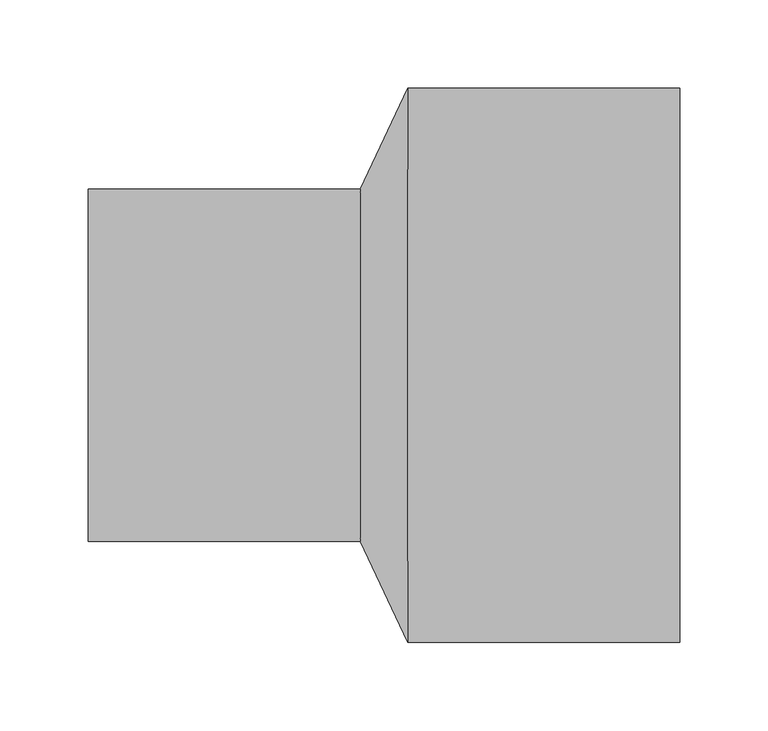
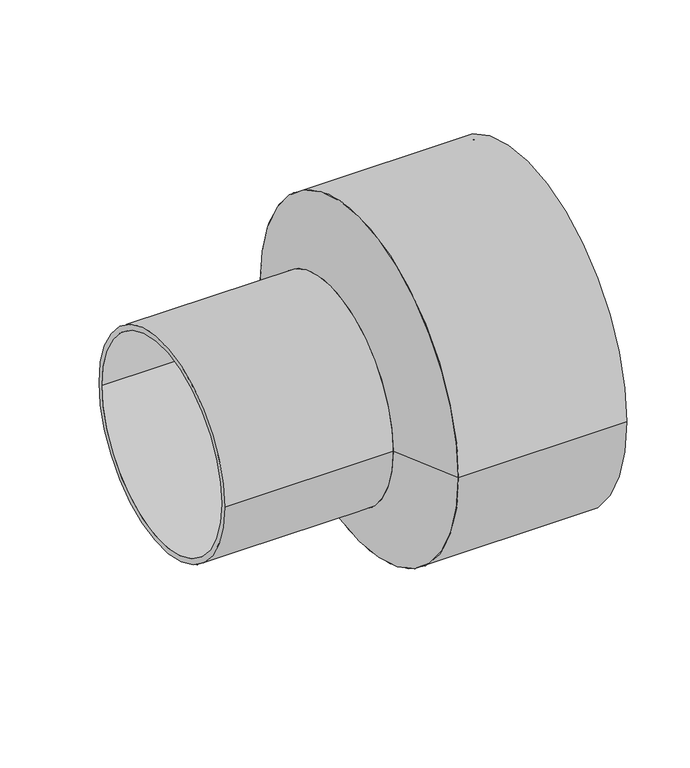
"""IFC4 building model written with IfcOpenShell, lengths in millimetres: pipe fitting geometry, EGB_VASEN_ PPR_Manguito reductor a tope WXRB110 : Manguito reductor a tope WXRB110."""

from ifc_helpers import new_model, si_unit, point, frame, origin, origin_2d, place, context, project, spatial, polyline, circle_curve, trimmed, segment, composite_curve, outline, extrude, source, transform, mapped, element, save
from ifc_brep_helpers import plane_surface, revolved_surface, advanced_brep


def pipe_fitting_3b765f45(model_context):
    return source(origin(), model_context, "Body", "SolidModel", [
        extrude(outline(composite_curve([segment(trimmed(circle_curve(origin_2d(), 157.5), [point((-157.5, 0.0))], [point((157.5, 0.0))], False, "CARTESIAN"), True, "CONTINUOUS"), segment(trimmed(circle_curve(origin_2d(), 157.5), [point((157.5, 0.0))], [point((-157.5, 0.0))], False, "CARTESIAN"), True, "CONTINUOUS")], self_intersect=False), holes=[composite_curve([segment(trimmed(circle_curve(origin_2d(), 152.5), [point((-152.5, 0.0))], [point((152.5, 0.0))], True, "CARTESIAN"), True, "CONTINUOUS"), segment(trimmed(circle_curve(origin_2d(), 152.5), [point((152.5, 0.0))], [point((-152.5, 0.0))], True, "CARTESIAN"), True, "CONTINUOUS")], self_intersect=False)]), frame((13.44, 0.0, 0.0), z_axis=(1.0, 0.0, 0.0), x_axis=(0.0, 1.0, 0.0)), (0.0, 0.0, 1.0), 154.56),
        extrude(outline(composite_curve([segment(trimmed(circle_curve(origin_2d(), 100.0), [point((-100.0, 0.0))], [point((100.0, 0.0))], False, "CARTESIAN"), True, "CONTINUOUS"), segment(trimmed(circle_curve(origin_2d(), 100.0), [point((100.0, 0.0))], [point((-100.0, 0.0))], False, "CARTESIAN"), True, "CONTINUOUS")], self_intersect=False), holes=[composite_curve([segment(trimmed(circle_curve(origin_2d(), 95.0), [point((-95.0, 0.0))], [point((95.0, 0.0))], True, "CARTESIAN"), True, "CONTINUOUS"), segment(trimmed(circle_curve(origin_2d(), 95.0), [point((95.0, 0.0))], [point((-95.0, 0.0))], True, "CARTESIAN"), True, "CONTINUOUS")], self_intersect=False)]), frame((-168.0, 0.0, 0.0), z_axis=(1.0, 0.0, 0.0), x_axis=(0.0, 1.0, 0.0)), (0.0, 0.0, 1.0), 154.56),
        advanced_brep(
        [(13.44, -157.5, 0.0), (13.44, 157.5, 0.0), (-13.44, -100.0, 0.0), (-13.44, 100.0, 0.0)],
        [
            (0, 1, circle_curve(frame((13.44, 0.0, 0.0), z_axis=(1.0, 0.0, 0.0), x_axis=(0.0, -1.0, 0.0)), 157.5)),
            (1, 0, circle_curve(frame((13.44, 0.0, 0.0), z_axis=(1.0, 0.0, 0.0), x_axis=(0.0, 1.0, 0.0)), 157.5)),
            (2, 3, circle_curve(frame((-13.44, 0.0, 0.0), z_axis=(-1.0, 0.0, 0.0), x_axis=(0.0, 1.0, 0.0)), 100.0)),
            (3, 2, circle_curve(frame((-13.44, 0.0, 0.0), z_axis=(-1.0, 0.0, 0.0), x_axis=(0.0, -1.0, 0.0)), 100.0)),
            (3, 1),
            (0, 2),
        ],
        [
            plane_surface(frame((13.44, 0.0, 0.0), z_axis=(1.0, 0.0, 0.0), x_axis=(0.0, 0.0, -1.0))),
            plane_surface(frame((-13.44, 0.0, 0.0), z_axis=(-1.0, 0.0, 0.0), x_axis=(0.0, 0.0, -1.0))),
            revolved_surface(polyline([(-13.439999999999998, 100.00000001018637, 0.0), (13.440000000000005, 157.5, 0.0)]), (-60.1878261, 0.0, 0.0), (1.0, 0.0, 0.0)),
            revolved_surface(polyline([(-13.439999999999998, -100.00000001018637, 0.0), (13.440000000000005, -157.5, 0.0)]), (-60.1878261, 0.0, 0.0), (1.0, 0.0, 0.0)),
        ],
        [
            (0, [[1, 2]]),
            (1, [[3, 4]]),
            (2, [[-4, 5, -1, 6]]),
            (3, [[-3, -6, -2, -5]]),
        ],
    ),
    ])


if __name__ == "__main__":
    model = new_model("IFC4")
    model_context = context("Model", 3, world=origin())
    ifc_project = project(units=[si_unit("LENGTHUNIT", "METRE", prefix="MILLI")], contexts=[model_context])
    site = spatial("IfcSite", under=ifc_project)
    building = spatial("IfcBuilding", under=site)
    placement = place(None, origin())
    pipe_fitting_shape = pipe_fitting_3b765f45(model_context)
    element("IfcPipeFitting", 1, ObjectType="EGB_VASEN_ PPR_Manguito reductor a tope WXRB110 : Manguito reductor a tope WXRB110", at=placement, inside=building, context=model_context, shape_type="MappedRepresentation", body=[
        mapped(pipe_fitting_shape, transform((0.0, 0.0, 0.0), x_axis=(1.0, 0.0, 0.0), y_axis=(0.0, 1.0, 0.0), z_axis=(0.0, 0.0, 1.0))),
    ])
    save(model, "model.ifc")
